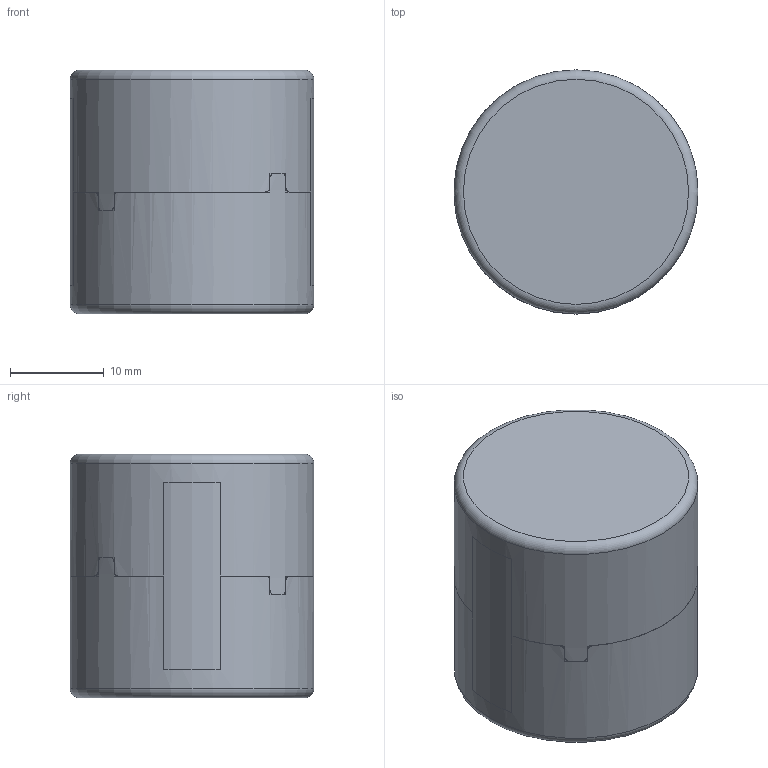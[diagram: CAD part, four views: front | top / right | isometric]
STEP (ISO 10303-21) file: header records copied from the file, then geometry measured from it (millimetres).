
FILE_DESCRIPTION(/* description */ (''),/* implementation_level */ '2;1');
FILE_NAME(/* name */ 'Balun70mm_PL_OZ1KLM_V2_Center.step',/* time_stamp */ '2026-06-20T11:33:55+02:00',/* author */ (''),/* organization */ (''),/* preprocessor_version */ 'ST-DEVELOPER v20.1',/* originating_system */ 'Autodesk Translation Framework v15.8.0.0',/* authorisation */ '');
FILE_SCHEMA (('AUTOMOTIVE_DESIGN { 1 0 10303 214 3 1 1 }'));
Length unit declared in the file: millimetre
Products named in the file (4): 2026-06-17-18-00-12-929; 2026-06-16-15-31-44-028; 2026-06-16-15-38-57-578; 2026-06-16-16-55-37-971
Assembly tree (3 placements, depth 2):
  2026-06-17-18-00-12-929
    2026-06-16-15-31-44-028
    2026-06-16-15-38-57-578
    2026-06-16-16-55-37-971
Bounding box: 26 x 26 x 26 mm (x, y, z)
Surface area: 8300.4 mm2
Topology: 3 solids, 3 shells, 69 faces, 185 edges, 122 vertices
Faces by surface type: plane 46, cylinder 19, torus 4
Full cylindrical faces by diameter (mm): 26 x3
Entity records: 2397 total; most frequent: CARTESIAN_POINT 527, DIRECTION 375, ORIENTED_EDGE 370, EDGE_CURVE 185, AXIS2_PLACEMENT_3D 130, VERTEX_POINT 122, LINE 115, VECTOR 115
